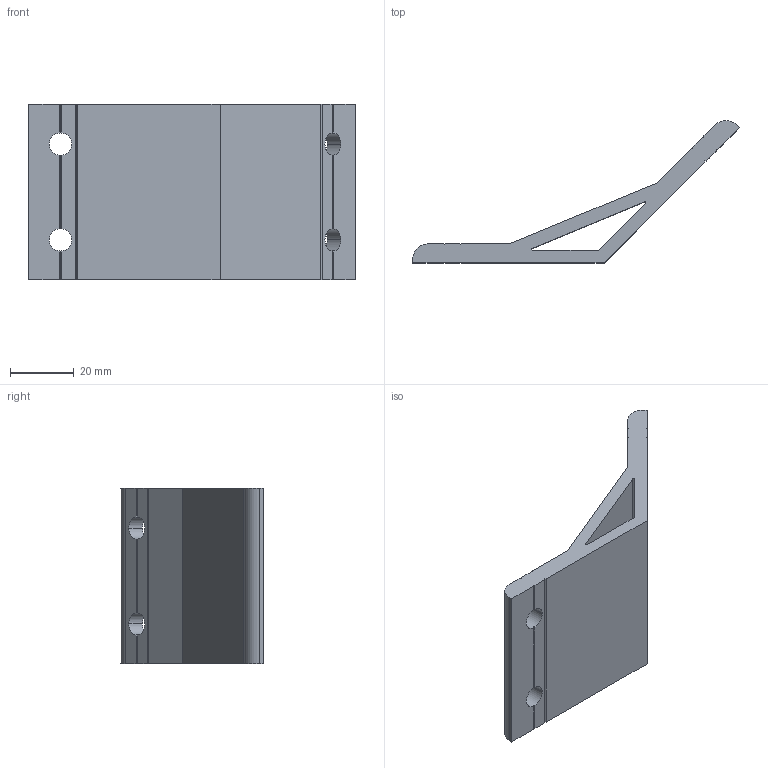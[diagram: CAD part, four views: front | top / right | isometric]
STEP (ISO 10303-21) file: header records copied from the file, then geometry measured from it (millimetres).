
FILE_DESCRIPTION (( 'STEP AP203' ), '1' );
FILE_NAME ('DALV13555-6.STEP', '2019-04-24T09:02:56', ( '' ), ( '' ), 'SwSTEP 2.0', 'SolidWorks 2012', '' );
FILE_SCHEMA (( 'CONFIG_CONTROL_DESIGN' ));
Length unit declared in the file: millimetre
Products named in the file (1): DALV13555-6
Bounding box: 102.43 x 44.58 x 55 mm (x, y, z)
Volume: 41867.6 mm3; surface area: 19463.8 mm2
Topology: 1 solids, 1 shells, 66 faces, 216 edges, 144 vertices
Faces by surface type: plane 52, cylinder 14
Entity records: 2461 total; most frequent: CARTESIAN_POINT 523, ORIENTED_EDGE 432, DIRECTION 362, EDGE_CURVE 216, VERTEX_POINT 144, VECTOR 140, LINE 140, AXIS2_PLACEMENT_3D 111
